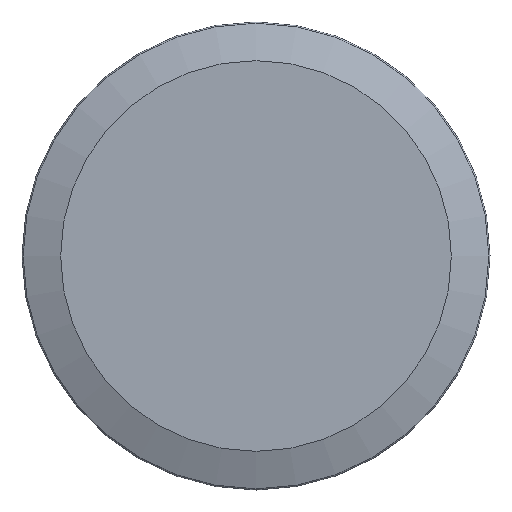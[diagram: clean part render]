
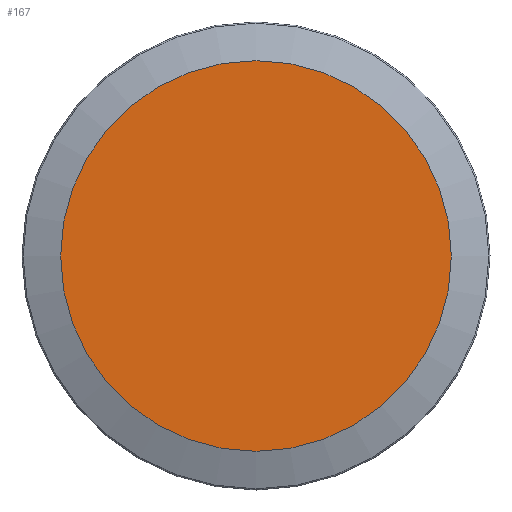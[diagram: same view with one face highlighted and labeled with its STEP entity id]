
A CAD part, left-side view. The second image highlights one B-rep face of the part: STEP entity #167.
In plain terms, the highlighted planar face has unit normal (-1, 0, 0).
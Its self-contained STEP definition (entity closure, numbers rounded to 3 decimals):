
#31=FACE_OUTER_BOUND('',#42,.T.);
#42=EDGE_LOOP('',(#108));
#54=CIRCLE('',#202,76.389);
#72=VERTEX_POINT('',#296);
#86=EDGE_CURVE('',#72,#72,#54,.T.);
#108=ORIENTED_EDGE('',*,*,#86,.F.);
#152=PLANE('',#201);
#167=ADVANCED_FACE('',(#31),#152,.F.);
#201=AXIS2_PLACEMENT_3D('',#295,#232,#233);
#202=AXIS2_PLACEMENT_3D('',#297,#234,#235);
#232=DIRECTION('center_axis',(1.,0.,0.));
#233=DIRECTION('ref_axis',(0.,0.,1.));
#234=DIRECTION('center_axis',(1.,0.,0.));
#235=DIRECTION('ref_axis',(0.,0.,1.));
#295=CARTESIAN_POINT('Origin',(-56.363,-15.626,0.));
#296=CARTESIAN_POINT('',(-56.363,-15.626,-76.389));
#297=CARTESIAN_POINT('Origin',(-56.363,-15.626,0.));
